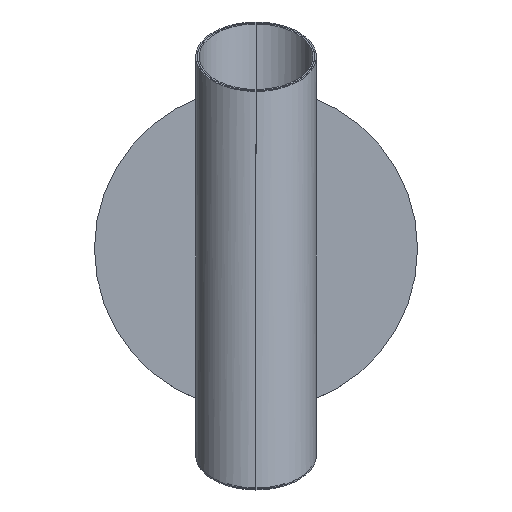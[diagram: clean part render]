
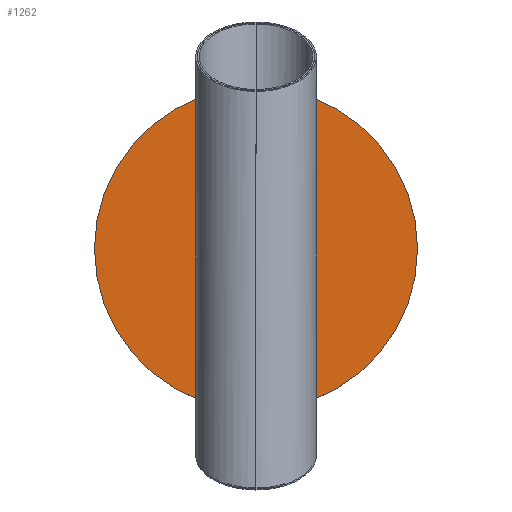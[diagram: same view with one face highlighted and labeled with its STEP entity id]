
A CAD part, top view. The second image highlights one B-rep face of the part: STEP entity #1262.
In plain terms, the highlighted planar face has unit normal (0, 0, 1).
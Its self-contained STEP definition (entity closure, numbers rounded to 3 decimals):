
#57=CIRCLE('',#1378,75.);
#59=CIRCLE('',#1381,75.);
#64=CIRCLE('',#1390,5.703);
#66=CIRCLE('',#1393,5.703);
#106=FACE_BOUND('',#307,.T.);
#145=PLANE('',#1405);
#223=FACE_OUTER_BOUND('',#306,.T.);
#306=EDGE_LOOP('',(#1146,#1147));
#307=EDGE_LOOP('',(#1148,#1149));
#612=VERTEX_POINT('',#2458);
#613=VERTEX_POINT('',#2459);
#622=VERTEX_POINT('',#2552);
#623=VERTEX_POINT('',#2554);
#779=EDGE_CURVE('',#612,#613,#57,.T.);
#783=EDGE_CURVE('',#613,#612,#59,.T.);
#793=EDGE_CURVE('',#623,#622,#64,.T.);
#796=EDGE_CURVE('',#622,#623,#66,.T.);
#1146=ORIENTED_EDGE('',*,*,#783,.T.);
#1147=ORIENTED_EDGE('',*,*,#779,.T.);
#1148=ORIENTED_EDGE('',*,*,#796,.T.);
#1149=ORIENTED_EDGE('',*,*,#793,.T.);
#1262=ADVANCED_FACE('',(#223,#106),#145,.T.);
#1378=AXIS2_PLACEMENT_3D('',#2460,#1712,#1713);
#1381=AXIS2_PLACEMENT_3D('',#2467,#1720,#1721);
#1390=AXIS2_PLACEMENT_3D('',#2555,#1741,#1742);
#1393=AXIS2_PLACEMENT_3D('',#2559,#1748,#1749);
#1405=AXIS2_PLACEMENT_3D('',#2580,#1777,#1778);
#1712=DIRECTION('center_axis',(0.,0.,1.));
#1713=DIRECTION('ref_axis',(1.,0.,0.));
#1720=DIRECTION('center_axis',(0.,0.,1.));
#1721=DIRECTION('ref_axis',(1.,0.,0.));
#1741=DIRECTION('center_axis',(0.,0.,-1.));
#1742=DIRECTION('ref_axis',(0.,1.,0.));
#1748=DIRECTION('center_axis',(0.,0.,-1.));
#1749=DIRECTION('ref_axis',(0.,1.,0.));
#1777=DIRECTION('center_axis',(0.,0.,1.));
#1778=DIRECTION('ref_axis',(0.,1.,0.));
#2458=CARTESIAN_POINT('',(75.,0.,3.));
#2459=CARTESIAN_POINT('',(-75.,0.,3.));
#2460=CARTESIAN_POINT('Origin',(0.,0.,
3.));
#2467=CARTESIAN_POINT('Origin',(0.,0.,
3.));
#2552=CARTESIAN_POINT('',(-50.,5.703,3.));
#2554=CARTESIAN_POINT('',(-50.,-5.703,3.));
#2555=CARTESIAN_POINT('Origin',(-50.,0.,3.));
#2559=CARTESIAN_POINT('Origin',(-50.,0.,3.));
#2580=CARTESIAN_POINT('Origin',(75.,0.,
3.));
